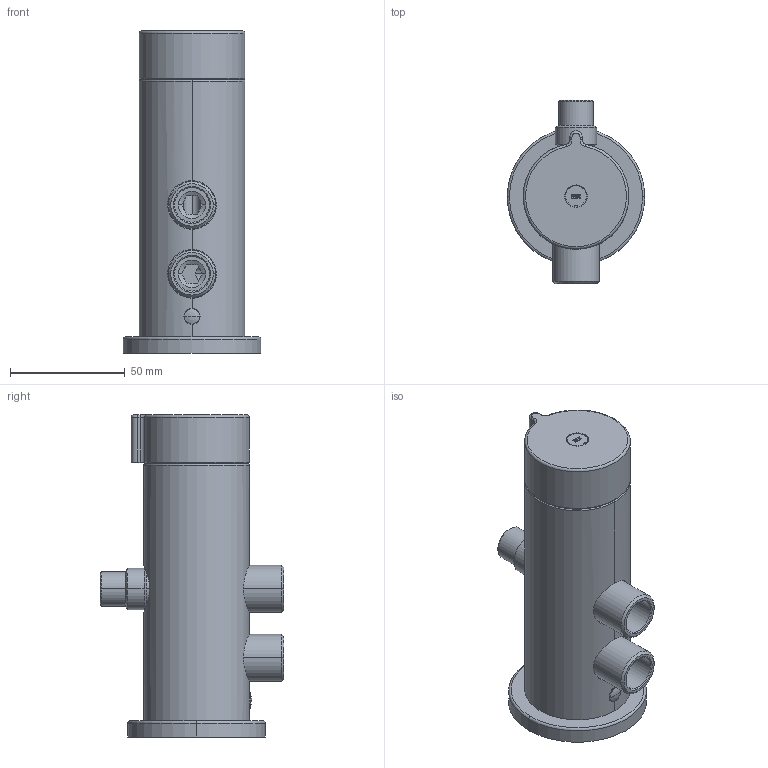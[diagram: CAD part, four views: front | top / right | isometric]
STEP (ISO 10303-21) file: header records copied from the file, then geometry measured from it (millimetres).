
FILE_DESCRIPTION((''),'2;1');
FILE_NAME('508511','2012-05-08T',('lff'),(''),'PRO/ENGINEER BY PARAMETRIC TECHNOLOGY CORPORATION, 2011080','PRO/ENGINEER BY PARAMETRIC TECHNOLOGY CORPORATION, 2011080','');
FILE_SCHEMA(('AUTOMOTIVE_DESIGN_CC2 { 1 2 10303 214 -1 1 5 2 }'));
Length unit declared in the file: millimetre
Products named in the file (1): 508511
Bounding box: 60 x 80 x 140.3 mm (x, y, z)
Volume: 164457 mm3; surface area: 55200.5 mm2
Topology: 2 solids, 2 shells, 524 faces, 1311 edges, 816 vertices
Faces by surface type: cylinder 158, plane 149, torus 83, cone 77, bspline 53, sphere 2, extrusion 2
Entity records: 24451 total; most frequent: CARTESIAN_POINT 8696, ORIENTED_EDGE 2606, DIRECTION 2466, EDGE_CURVE 1303, AXIS2_PLACEMENT_3D 1025, VERTEX_POINT 816, EDGE_LOOP 587, CIRCLE 554
